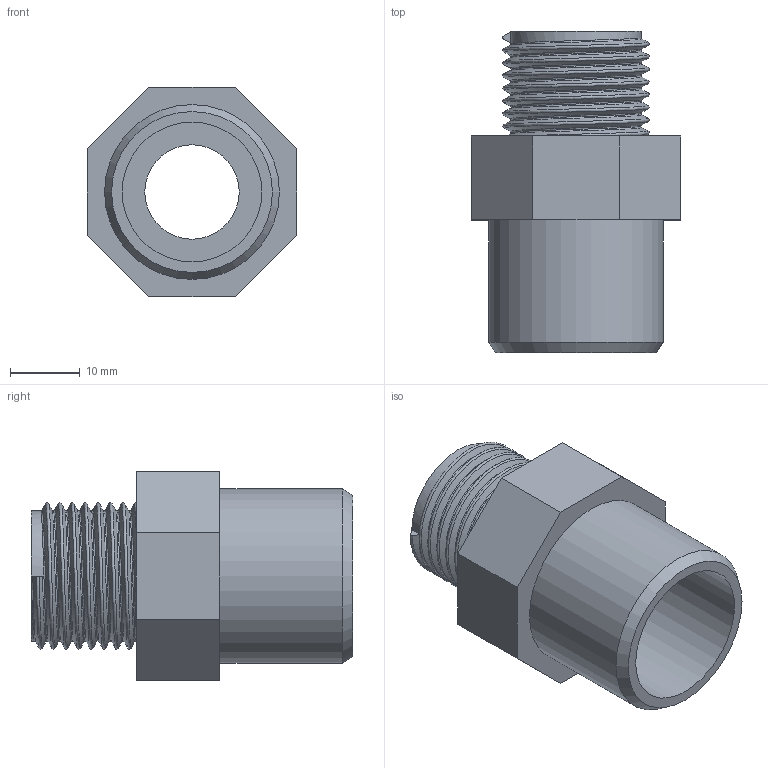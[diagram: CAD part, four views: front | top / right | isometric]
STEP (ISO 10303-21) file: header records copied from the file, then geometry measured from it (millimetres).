
FILE_DESCRIPTION(/* description */ ('PVC adattatore incollaggio-filettatura BSP maschio'),/* implementation_level */ '2;1');
FILE_NAME(/* name */ 'C:\Users\POLYPIPE\Desktop\DATASET INVENTOR\LIBRERIA EFFAST\RACCORDI 3DxWEB\RGR\3D_RGRAMG\3D_RGRAMG020B.stp',/* time_stamp */ '2018-01-19T17:34:18+01:00',/* author */ ('POLYPIPE'),/* organization */ ('Polypipe Italia s.r.l.'),/* preprocessor_version */ 'ST-DEVELOPER v16.1',/* originating_system */ 'Autodesk Inventor 2016',/* authorisation */ '');
FILE_SCHEMA (('CONFIG_CONTROL_DESIGN'));
Length unit declared in the file: millimetre
Products named in the file (1): 3D_RGRAMG
Bounding box: 30 x 46 x 30 mm (x, y, z)
Volume: 13026.2 mm3; surface area: 7694.6 mm2
Topology: 1 solids, 1 shells, 26 faces, 56 edges, 36 vertices
Faces by surface type: plane 15, cylinder 5, bspline 5, cone 1
Full cylindrical faces by diameter (mm): 13.5 x1, 14.5 x1, 18.631 x1, 20 x1, 25 x1
Entity records: 3695 total; most frequent: CARTESIAN_POINT 3142, ORIENTED_EDGE 102, DIRECTION 97, EDGE_CURVE 51, EDGE_LOOP 37, VERTEX_POINT 36, AXIS2_PLACEMENT_3D 35, LINE 27
